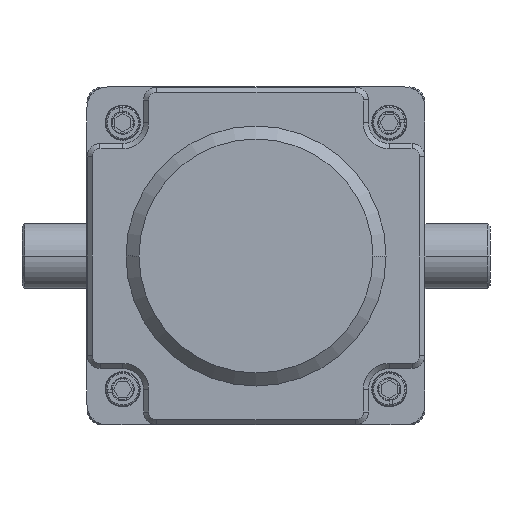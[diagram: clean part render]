
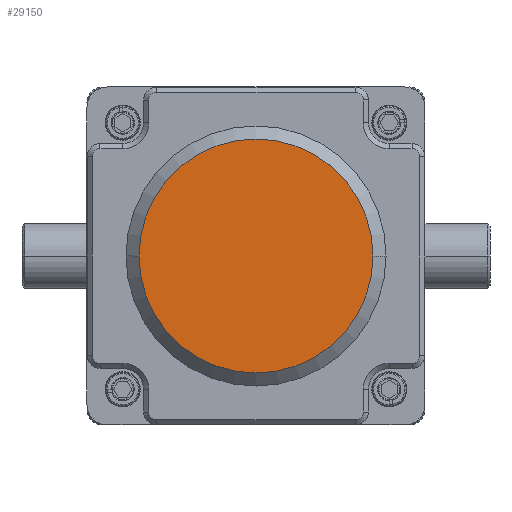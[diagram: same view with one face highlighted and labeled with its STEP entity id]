
A CAD part, front view. The second image highlights one B-rep face of the part: STEP entity #29150.
In plain terms, the highlighted planar face has unit normal (0, -1, 0) as drawn and (0, 1, 0) by its records, which use the part's own axes.
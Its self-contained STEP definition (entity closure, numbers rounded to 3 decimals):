
#27228=CARTESIAN_POINT('',(0.,166.,0.));
#27229=DIRECTION('',(0.,1.,0.));
#27230=DIRECTION('',(-1.,0.,0.));
#27231=AXIS2_PLACEMENT_3D('',#27228,#27229,#27230);
#27233=CARTESIAN_POINT('',(0.,166.,0.));
#27234=DIRECTION('',(0.,1.,0.));
#27235=DIRECTION('',(1.,0.,0.));
#27236=AXIS2_PLACEMENT_3D('',#27233,#27234,#27235);
#28095=CARTESIAN_POINT('',(-45.,166.,0.));
#28096=CARTESIAN_POINT('',(45.,166.,0.));
#28097=VERTEX_POINT('',#28095);
#28098=VERTEX_POINT('',#28096);
#29140=CARTESIAN_POINT('',(0.,166.,0.));
#29141=DIRECTION('',(0.,1.,0.));
#29142=DIRECTION('',(1.,0.,0.));
#29143=AXIS2_PLACEMENT_3D('',#29140,#29141,#29142);
#29144=PLANE('',#29143);
#29146=ORIENTED_EDGE('',*,*,#29145,.F.);
#29147=ORIENTED_EDGE('',*,*,#29130,.F.);
#29148=EDGE_LOOP('',(#29146,#29147));
#29149=FACE_OUTER_BOUND('',#29148,.F.);
#29150=ADVANCED_FACE('',(#29149),#29144,.T.);
#27232=CIRCLE('',#27231,45.);
#27237=CIRCLE('',#27236,45.);
#29130=EDGE_CURVE('',#28098,#28097,#27237,.T.);
#29145=EDGE_CURVE('',#28097,#28098,#27232,.T.);
